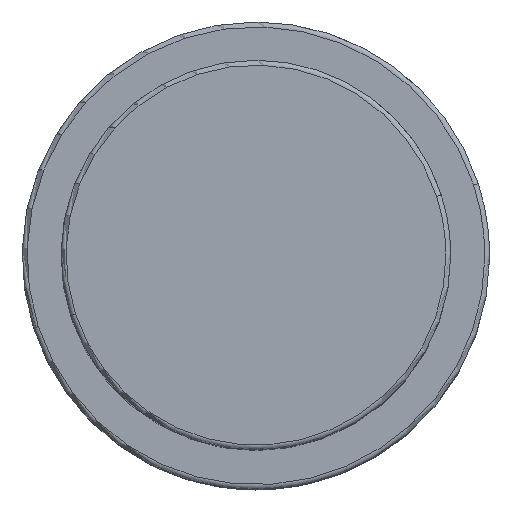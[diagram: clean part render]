
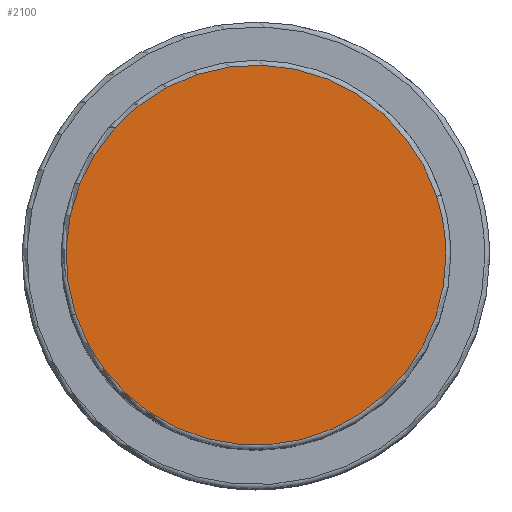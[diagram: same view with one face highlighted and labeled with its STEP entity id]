
A CAD part, top view. The second image highlights one B-rep face of the part: STEP entity #2100.
In plain terms, the highlighted planar face has unit normal (0, 0, 1).
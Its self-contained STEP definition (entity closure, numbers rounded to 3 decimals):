
#2066=CARTESIAN_POINT('',(19.5,0.0,53.5));
#2067=VERTEX_POINT('',#2066);
#2068=CARTESIAN_POINT('',(18.546,6.026,53.5));
#2069=VERTEX_POINT('',#2068);
#2070=CARTESIAN_POINT('',(0.0,0.0,53.5));
#2071=DIRECTION('',(0.0,0.0,1.0));
#2072=DIRECTION('',(1.0,0.0,0.0));
#2073=AXIS2_PLACEMENT_3D('',#2070,#2071,#2072);
#2074=CIRCLE('',#2073,19.5);
#2075=EDGE_CURVE('no 1980',#2067,#2069,#2074,.T.);
#2076=ORIENTED_EDGE('',*,*,#2075,.T.);
#2077=CARTESIAN_POINT('',(-18.546,-6.026,53.5));
#2078=VERTEX_POINT('',#2077);
#2079=CARTESIAN_POINT('',(0.0,0.0,53.5));
#2080=DIRECTION('',(0.0,0.0,1.0));
#2081=DIRECTION('',(1.0,0.0,0.0));
#2082=AXIS2_PLACEMENT_3D('',#2079,#2080,#2081);
#2083=CIRCLE('',#2082,19.5);
#2084=EDGE_CURVE('no 1986',#2069,#2078,#2083,.T.);
#2085=ORIENTED_EDGE('',*,*,#2084,.T.);
#2086=CARTESIAN_POINT('',(0.0,0.0,53.5));
#2087=DIRECTION('',(0.0,0.0,1.0));
#2088=DIRECTION('',(1.0,0.0,0.0));
#2089=AXIS2_PLACEMENT_3D('',#2086,#2087,#2088);
#2090=CIRCLE('',#2089,19.5);
#2091=EDGE_CURVE('no 1990',#2078,#2067,#2090,.T.);
#2092=ORIENTED_EDGE('',*,*,#2091,.T.);
#2093=EDGE_LOOP('',(#2076,#2085,#2092));
#2094=FACE_OUTER_BOUND('',#2093,.T.);
#2095=CARTESIAN_POINT('',(0.0,0.0,53.5));
#2096=DIRECTION('',(0.0,0.0,1.0));
#2097=DIRECTION('',(1.0,0.0,0.0));
#2098=AXIS2_PLACEMENT_3D('',#2095,#2096,#2097);
#2099=PLANE('',#2098);
#2100=ADVANCED_FACE('no 1971',(#2094),#2099,.T.);
